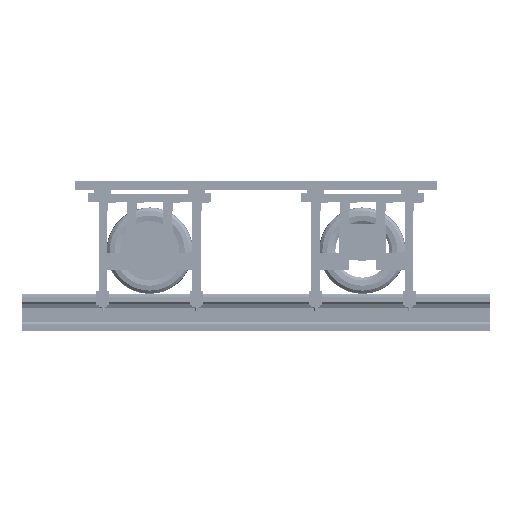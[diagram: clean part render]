
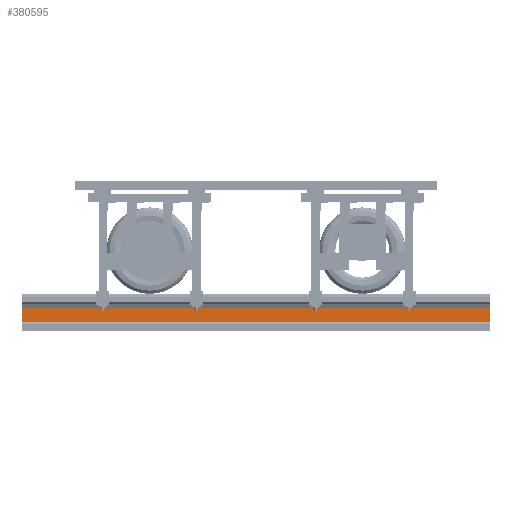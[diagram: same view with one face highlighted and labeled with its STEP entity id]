
A CAD part, front view. The second image highlights one B-rep face of the part: STEP entity #380595.
In plain terms, the highlighted planar face has unit normal (0, -1, 0).
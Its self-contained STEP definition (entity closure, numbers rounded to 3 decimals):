
#378630 = PLANE('',#378631);
#378631 = AXIS2_PLACEMENT_3D('',#378632,#378633,#378634);
#378632 = CARTESIAN_POINT('',(1100.,-750.,-106.51));
#378633 = DIRECTION('',(-1.,-0.,-0.));
#378634 = DIRECTION('',(0.,0.,-1.));
#378684 = PLANE('',#378685);
#378685 = AXIS2_PLACEMENT_3D('',#378686,#378687,#378688);
#378686 = CARTESIAN_POINT('',(-1100.,-750.,-106.51));
#378687 = DIRECTION('',(-1.,-0.,-0.));
#378688 = DIRECTION('',(0.,0.,-1.));
#380487 = PLANE('',#380488);
#380488 = AXIS2_PLACEMENT_3D('',#380489,#380490,#380491);
#380489 = CARTESIAN_POINT('',(-1100.,-766.25,-143.9));
#380490 = DIRECTION('',(0.,-0.83,0.558));
#380491 = DIRECTION('',(0.,0.558,0.83));
#380525 = VERTEX_POINT('',#380526);
#380526 = CARTESIAN_POINT('',(1100.,-758.25,-132.));
#380547 = EDGE_CURVE('',#380548,#380525,#380550,.T.);
#380548 = VERTEX_POINT('',#380549);
#380549 = CARTESIAN_POINT('',(-1100.,-758.25,-132.));
#380550 = SURFACE_CURVE('',#380551,(#380555,#380562),.PCURVE_S1.);
#380551 = LINE('',#380552,#380553);
#380552 = CARTESIAN_POINT('',(-1100.,-758.25,-132.));
#380553 = VECTOR('',#380554,1.);
#380554 = DIRECTION('',(1.,0.,0.));
#380555 = PCURVE('',#380487,#380556);
#380556 = DEFINITIONAL_REPRESENTATION('',(#380557),#380561);
#380557 = LINE('',#380558,#380559);
#380558 = CARTESIAN_POINT('',(14.339,0.));
#380559 = VECTOR('',#380560,1.);
#380560 = DIRECTION('',(0.,-1.));
#380561 = ( GEOMETRIC_REPRESENTATION_CONTEXT(2) 
PARAMETRIC_REPRESENTATION_CONTEXT() REPRESENTATION_CONTEXT('2D SPACE',''
  ) );
#380562 = PCURVE('',#380563,#380568);
#380563 = PLANE('',#380564);
#380564 = AXIS2_PLACEMENT_3D('',#380565,#380566,#380567);
#380565 = CARTESIAN_POINT('',(-1100.,-758.25,-132.));
#380566 = DIRECTION('',(0.,-1.,0.));
#380567 = DIRECTION('',(0.,0.,1.));
#380568 = DEFINITIONAL_REPRESENTATION('',(#380569),#380573);
#380569 = LINE('',#380570,#380571);
#380570 = CARTESIAN_POINT('',(0.,0.));
#380571 = VECTOR('',#380572,1.);
#380572 = DIRECTION('',(0.,-1.));
#380573 = ( GEOMETRIC_REPRESENTATION_CONTEXT(2) 
PARAMETRIC_REPRESENTATION_CONTEXT() REPRESENTATION_CONTEXT('2D SPACE',''
  ) );
#380595 = ADVANCED_FACE('',(#380596),#380563,.T.);
#380596 = FACE_BOUND('',#380597,.T.);
#380597 = EDGE_LOOP('',(#380598,#380599,#380622,#380650));
#380598 = ORIENTED_EDGE('',*,*,#380547,.T.);
#380599 = ORIENTED_EDGE('',*,*,#380600,.T.);
#380600 = EDGE_CURVE('',#380525,#380601,#380603,.T.);
#380601 = VERTEX_POINT('',#380602);
#380602 = CARTESIAN_POINT('',(1100.,-758.25,-65.));
#380603 = SURFACE_CURVE('',#380604,(#380608,#380615),.PCURVE_S1.);
#380604 = LINE('',#380605,#380606);
#380605 = CARTESIAN_POINT('',(1100.,-758.25,-132.));
#380606 = VECTOR('',#380607,1.);
#380607 = DIRECTION('',(0.,0.,1.));
#380608 = PCURVE('',#380563,#380609);
#380609 = DEFINITIONAL_REPRESENTATION('',(#380610),#380614);
#380610 = LINE('',#380611,#380612);
#380611 = CARTESIAN_POINT('',(0.,-2200.));
#380612 = VECTOR('',#380613,1.);
#380613 = DIRECTION('',(1.,0.));
#380614 = ( GEOMETRIC_REPRESENTATION_CONTEXT(2) 
PARAMETRIC_REPRESENTATION_CONTEXT() REPRESENTATION_CONTEXT('2D SPACE',''
  ) );
#380615 = PCURVE('',#378630,#380616);
#380616 = DEFINITIONAL_REPRESENTATION('',(#380617),#380621);
#380617 = LINE('',#380618,#380619);
#380618 = CARTESIAN_POINT('',(25.49,8.25));
#380619 = VECTOR('',#380620,1.);
#380620 = DIRECTION('',(-1.,0.));
#380621 = ( GEOMETRIC_REPRESENTATION_CONTEXT(2) 
PARAMETRIC_REPRESENTATION_CONTEXT() REPRESENTATION_CONTEXT('2D SPACE',''
  ) );
#380622 = ORIENTED_EDGE('',*,*,#380623,.F.);
#380623 = EDGE_CURVE('',#380624,#380601,#380626,.T.);
#380624 = VERTEX_POINT('',#380625);
#380625 = CARTESIAN_POINT('',(-1100.,-758.25,-65.));
#380626 = SURFACE_CURVE('',#380627,(#380631,#380638),.PCURVE_S1.);
#380627 = LINE('',#380628,#380629);
#380628 = CARTESIAN_POINT('',(-1100.,-758.25,-65.));
#380629 = VECTOR('',#380630,1.);
#380630 = DIRECTION('',(1.,0.,0.));
#380631 = PCURVE('',#380563,#380632);
#380632 = DEFINITIONAL_REPRESENTATION('',(#380633),#380637);
#380633 = LINE('',#380634,#380635);
#380634 = CARTESIAN_POINT('',(67.,0.));
#380635 = VECTOR('',#380636,1.);
#380636 = DIRECTION('',(0.,-1.));
#380637 = ( GEOMETRIC_REPRESENTATION_CONTEXT(2) 
PARAMETRIC_REPRESENTATION_CONTEXT() REPRESENTATION_CONTEXT('2D SPACE',''
  ) );
#380638 = PCURVE('',#380639,#380644);
#380639 = PLANE('',#380640);
#380640 = AXIS2_PLACEMENT_3D('',#380641,#380642,#380643);
#380641 = CARTESIAN_POINT('',(-1100.,-758.25,-65.));
#380642 = DIRECTION('',(0.,-0.894,-0.447));
#380643 = DIRECTION('',(0.,-0.447,0.894));
#380644 = DEFINITIONAL_REPRESENTATION('',(#380645),#380649);
#380645 = LINE('',#380646,#380647);
#380646 = CARTESIAN_POINT('',(0.,0.));
#380647 = VECTOR('',#380648,1.);
#380648 = DIRECTION('',(0.,-1.));
#380649 = ( GEOMETRIC_REPRESENTATION_CONTEXT(2) 
PARAMETRIC_REPRESENTATION_CONTEXT() REPRESENTATION_CONTEXT('2D SPACE',''
  ) );
#380650 = ORIENTED_EDGE('',*,*,#380651,.F.);
#380651 = EDGE_CURVE('',#380548,#380624,#380652,.T.);
#380652 = SURFACE_CURVE('',#380653,(#380657,#380664),.PCURVE_S1.);
#380653 = LINE('',#380654,#380655);
#380654 = CARTESIAN_POINT('',(-1100.,-758.25,-132.));
#380655 = VECTOR('',#380656,1.);
#380656 = DIRECTION('',(0.,0.,1.));
#380657 = PCURVE('',#380563,#380658);
#380658 = DEFINITIONAL_REPRESENTATION('',(#380659),#380663);
#380659 = LINE('',#380660,#380661);
#380660 = CARTESIAN_POINT('',(0.,0.));
#380661 = VECTOR('',#380662,1.);
#380662 = DIRECTION('',(1.,0.));
#380663 = ( GEOMETRIC_REPRESENTATION_CONTEXT(2) 
PARAMETRIC_REPRESENTATION_CONTEXT() REPRESENTATION_CONTEXT('2D SPACE',''
  ) );
#380664 = PCURVE('',#378684,#380665);
#380665 = DEFINITIONAL_REPRESENTATION('',(#380666),#380670);
#380666 = LINE('',#380667,#380668);
#380667 = CARTESIAN_POINT('',(25.49,8.25));
#380668 = VECTOR('',#380669,1.);
#380669 = DIRECTION('',(-1.,0.));
#380670 = ( GEOMETRIC_REPRESENTATION_CONTEXT(2) 
PARAMETRIC_REPRESENTATION_CONTEXT() REPRESENTATION_CONTEXT('2D SPACE',''
  ) );
